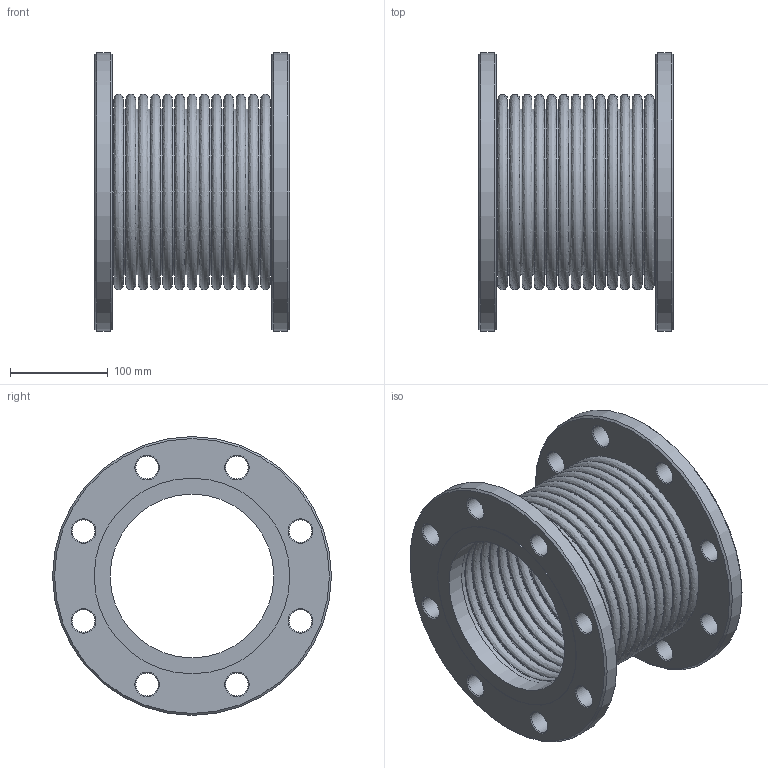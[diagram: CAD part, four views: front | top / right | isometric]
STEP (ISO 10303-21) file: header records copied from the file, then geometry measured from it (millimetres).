
FILE_DESCRIPTION (( 'STEP AP214' ), '1' );
FILE_NAME ('97129999.STEP', '2024-09-06T14:06:50', ( '' ), ( '' ), 'SwSTEP 2.0', 'SolidWorks 2021', '' );
FILE_SCHEMA (( 'AUTOMOTIVE_DESIGN' ));
Length unit declared in the file: millimetre
Products named in the file (1): 97129999
Bounding box: 200 x 285 x 285 mm (x, y, z)
Volume: 1544340.5 mm3; surface area: 877061.4 mm2
Topology: 1 solids, 1 shells, 172 faces, 431 edges, 269 vertices
Faces by surface type: cone 88, bspline 50, cylinder 24, plane 10
Full cylindrical faces by diameter (mm): 23 x16, 167.3 x2, 168.3 x2, 200 x2, 285 x2
Entity records: 4856 total; most frequent: CARTESIAN_POINT 1899, DIRECTION 622, EDGE_LOOP 376, ORIENTED_EDGE 376, AXIS2_PLACEMENT_3D 311, FACE_OUTER_BOUND 246, VERTEX_POINT 188, EDGE_CURVE 188
